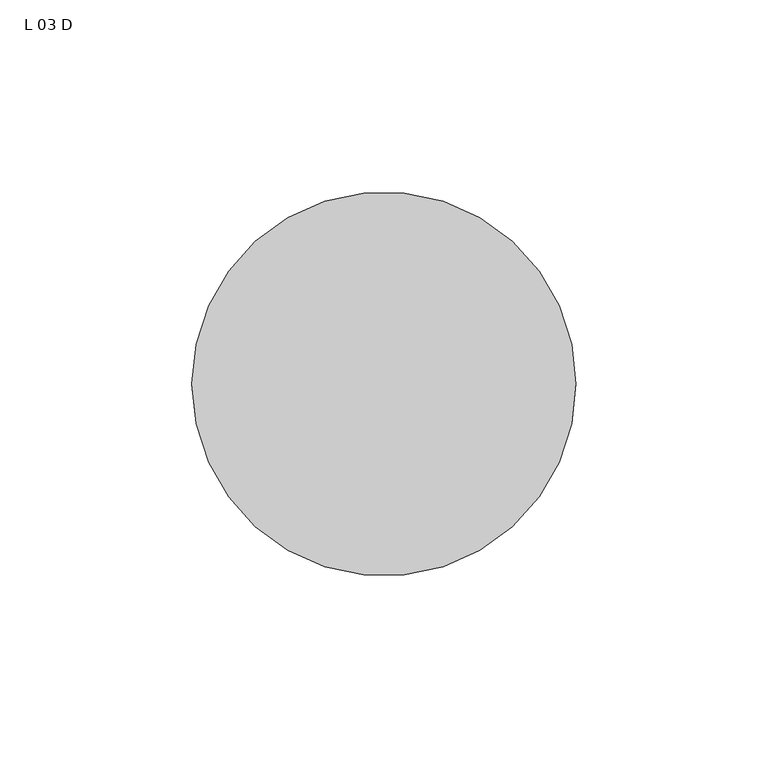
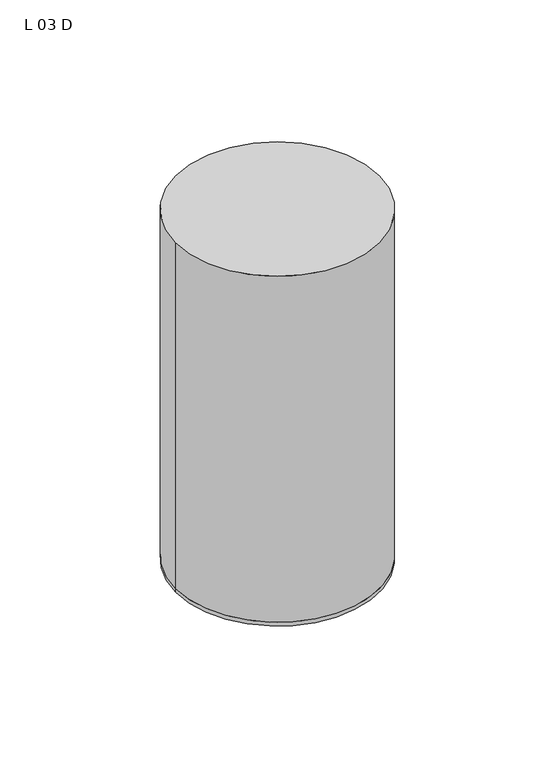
"""IFC4 building model written with IfcOpenShell, lengths in millimetres: light fixture geometry, ZYR_06.02.02 Down Superficie : L 03 D."""

import ifcopenshell
import ifcopenshell.guid

model = None  # the IFC model being written
_history = None  # IfcOwnerHistory: only IFC2X3 demands one
_inside = {}  # id of a spatial element -> (the spatial element, [elements in it])
_under = {}  # id of a project, library or spatial element -> (it, [spatial elements below it])
_declared = {}  # id of a project -> (the project, [libraries it declares])
_typed = {}  # id of a type object -> (the type object, [elements of that type])
_made_of = {}  # id of a material, layer set ... -> (it, [elements and type objects made of it])


def new_model(schema):
    """Start an empty IFC model of exactly this schema.

    Asked for "IFC4X3", IfcOpenShell would pick the latest addendum, in which some entities
    have other attributes; the version numbers below select the first issue.
    IFC2X3 requires an IfcOwnerHistory on every rooted entity: one is made here for all.
    """
    global model, _history
    if schema == "IFC4X3":
        model = ifcopenshell.file(schema_version=(4, 3, 0, 0))
    else:
        model = ifcopenshell.file(schema=schema)
    _inside.clear()
    _under.clear()
    _declared.clear()
    _typed.clear()
    _made_of.clear()
    _history = None
    if model.schema == "IFC2X3":
        org = make("IfcOrganization", Name="unknown")
        user = make(
            "IfcPersonAndOrganization",
            ThePerson=make("IfcPerson", FamilyName="unknown"),
            TheOrganization=org,
        )
        app = make(
            "IfcApplication",
            ApplicationDeveloper=org,
            Version="unknown",
            ApplicationFullName="unknown",
            ApplicationIdentifier="unknown",
        )
        _history = make(
            "IfcOwnerHistory",
            OwningUser=user,
            OwningApplication=app,
            ChangeAction="ADDED",
            CreationDate=0,
        )
    return model


def make(cls, **values):
    """One entity of the class cls with the attributes given. An attribute that is None is left unset."""
    return model.create_entity(
        cls, **{name: value for name, value in values.items() if value is not None}
    )


def rooted(cls, **values):
    """An entity with a GlobalId (a new one), such as an element, a storey or a relation."""
    return make(cls, GlobalId=ifcopenshell.guid.new(), OwnerHistory=_history, **values)


def si_unit(unit_type, name, prefix=None):
    """IfcSIUnit, for example si_unit("LENGTHUNIT", "METRE", prefix="MILLI")."""
    return make("IfcSIUnit", UnitType=unit_type, Prefix=prefix, Name=name)


def assignment(units):
    """IfcUnitAssignment: the units of a project."""
    return None if units is None else make("IfcUnitAssignment", Units=units)


def point(xyz):
    """IfcCartesianPoint."""
    return None if xyz is None else make("IfcCartesianPoint", Coordinates=xyz)


def direction(xyz):
    """IfcDirection."""
    return None if xyz is None else make("IfcDirection", DirectionRatios=xyz)


def frame(location, z_axis=None, x_axis=None):
    """IfcAxis2Placement3D, a coordinate frame: its origin and axes. An axis left out is left unset."""
    return make(
        "IfcAxis2Placement3D",
        Location=point(location),
        Axis=direction(z_axis),
        RefDirection=direction(x_axis),
    )


def frame_2d(location, x_axis=None):
    """IfcAxis2Placement2D, a coordinate frame in the plane: its origin and x axis."""
    return make(
        "IfcAxis2Placement2D", Location=point(location), RefDirection=direction(x_axis)
    )


def origin():
    """The frame at (0, 0, 0) with its axes left unset."""
    return frame((0.0, 0.0, 0.0))


def origin_2d():
    """The frame at (0, 0) in the plane with its x axis left unset."""
    return frame_2d((0.0, 0.0))


def place(relative_to, where):
    """IfcLocalPlacement: puts the frame where relative to a parent placement (None: the world)."""
    return make(
        "IfcLocalPlacement", PlacementRelTo=relative_to, RelativePlacement=where
    )


def context(
    kind, dimensions, precision=None, world=None, true_north=None, identifier=None
):
    """IfcGeometricRepresentationContext, for example the 3D "Model" context."""
    return make(
        "IfcGeometricRepresentationContext",
        ContextIdentifier=identifier,
        ContextType=kind,
        CoordinateSpaceDimension=dimensions,
        Precision=precision,
        WorldCoordinateSystem=world,
        TrueNorth=true_north,
    )


def project(units=None, contexts=None):
    """IfcProject with its units and contexts."""
    return rooted(
        "IfcProject",
        Name="project",
        RepresentationContexts=contexts,
        UnitsInContext=assignment(units),
    )


def spatial(cls, under=None, at=None, **own):
    """A site, building, storey or space (cls), placed at a placement, below another one or the project."""
    s = rooted(cls, ObjectPlacement=at, **own)
    if under is not None:
        _under.setdefault(under.id(), (under, []))[1].append(s)
    return s


def circle_curve(where, radius):
    """IfcCircle in the frame where."""
    return make("IfcCircle", Position=where, Radius=radius)


def trimmed(basis, trim1, trim2, sense, master):
    """IfcTrimmedCurve: the piece of a basis curve between two trims."""
    return make(
        "IfcTrimmedCurve",
        BasisCurve=basis,
        Trim1=trim1,
        Trim2=trim2,
        SenseAgreement=sense,
        MasterRepresentation=master,
    )


def segment(curve, same_sense, transition):
    """IfcCompositeCurveSegment."""
    return make(
        "IfcCompositeCurveSegment",
        Transition=transition,
        SameSense=same_sense,
        ParentCurve=curve,
    )


def composite_curve(segments, self_intersect=None):
    """IfcCompositeCurve: segments joined end to end."""
    return make("IfcCompositeCurve", Segments=segments, SelfIntersect=self_intersect)


def outline(outer, holes=None, kind="AREA"):
    """IfcArbitraryClosedProfileDef: a profile drawn as a closed curve; with holes, ...WithVoids."""
    if holes is None:
        return make("IfcArbitraryClosedProfileDef", ProfileType=kind, OuterCurve=outer)
    return make(
        "IfcArbitraryProfileDefWithVoids",
        ProfileType=kind,
        OuterCurve=outer,
        InnerCurves=holes,
    )


def extrude(swept, where, along, depth):
    """IfcExtrudedAreaSolid: the profile swept, set in the frame where, extruded along a direction by depth."""
    return make(
        "IfcExtrudedAreaSolid",
        SweptArea=swept,
        Position=where,
        ExtrudedDirection=direction(along),
        Depth=depth,
    )


def shape(context_of_items, identifier, shape_type, items):
    """IfcShapeRepresentation: the items that make up one representation, for example the "Body"."""
    return make(
        "IfcShapeRepresentation",
        ContextOfItems=context_of_items,
        RepresentationIdentifier=identifier,
        RepresentationType=shape_type,
        Items=items,
    )


def source(mapping_origin, context_of_items, identifier, shape_type, items):
    """IfcRepresentationMap: a shape defined once, which mapped items show again and again."""
    return make(
        "IfcRepresentationMap",
        MappingOrigin=mapping_origin,
        MappedRepresentation=shape(context_of_items, identifier, shape_type, items),
    )


def transform(
    local_origin,
    x_axis=None,
    y_axis=None,
    z_axis=None,
    scale=None,
    scale2=None,
    scale3=None,
    uniform=True,
):
    """IfcCartesianTransformationOperator3D, or its non-uniform kind. x_axis, y_axis, z_axis: its Axis1, 2, 3."""
    if uniform:
        return make(
            "IfcCartesianTransformationOperator3D",
            Axis1=direction(x_axis),
            Axis2=direction(y_axis),
            LocalOrigin=point(local_origin),
            Scale=scale,
            Axis3=direction(z_axis),
        )
    return make(
        "IfcCartesianTransformationOperator3DnonUniform",
        Axis1=direction(x_axis),
        Axis2=direction(y_axis),
        LocalOrigin=point(local_origin),
        Scale=scale,
        Axis3=direction(z_axis),
        Scale2=scale2,
        Scale3=scale3,
    )


def mapped(mapping_source, mapping_target):
    """IfcMappedItem: shows the shape of a source again, moved by a transform."""
    return make(
        "IfcMappedItem", MappingSource=mapping_source, MappingTarget=mapping_target
    )


def made_of(thing, what):
    """Note that an element or type object is made of a material, layer set ...; save() writes the relation."""
    if what is not None:
        _made_of.setdefault(what.id(), (what, []))[1].append(thing)
    return thing


def element(
    cls,
    number,
    at=None,
    inside=None,
    cuts=None,
    type_object=None,
    material=None,
    context=None,
    identifier="Body",
    shape_type=None,
    held_by="IfcProductDefinitionShape",
    body=None,
    shapes=None,
    **own,
):
    """One element of the class cls, such as IfcWall. Its Tag is "e" and its number.

    at: its placement. inside: the storey or other place that contains it. cuts: it is an
    opening in that element (IfcRelVoidsElement). A single representation is given by context,
    identifier, shape_type and body (its items); several are given by shapes. held_by: the class
    of the entity that holds the representations. save() writes the other relations.
    """
    e = rooted(cls, Tag="e%d" % number, ObjectPlacement=at, **own)
    if body is not None:
        shapes = [shape(context, identifier, shape_type, body)]
    if shapes is not None:
        e.Representation = make(held_by, Representations=shapes)
    if inside is not None:
        _inside.setdefault(inside.id(), (inside, []))[1].append(e)
    if cuts is not None:
        rooted(
            "IfcRelVoidsElement", RelatingBuildingElement=cuts, RelatedOpeningElement=e
        )
    if type_object is not None:
        _typed.setdefault(type_object.id(), (type_object, []))[1].append(e)
    return made_of(e, material)


def aggregate(whole, parts):
    """IfcRelAggregates: a whole, such as a stair, and the parts it consists of."""
    return rooted("IfcRelAggregates", RelatingObject=whole, RelatedObjects=parts)


def save(model, path):
    """Write the relations noted so far, then the file.

    IfcRelAggregates (storeys below a building ...), IfcRelContainedInSpatialStructure (elements
    in a storey), IfcRelDefinesByType, IfcRelAssociatesMaterial and IfcRelDeclares: one each for
    every whole, place, type object, material and project.
    """
    for whole, parts in _under.values():
        aggregate(whole, parts)
    for where, things in _inside.values():
        rooted(
            "IfcRelContainedInSpatialStructure",
            RelatedElements=things,
            RelatingStructure=where,
        )
    for kind, things in _typed.values():
        rooted("IfcRelDefinesByType", RelatedObjects=things, RelatingType=kind)
    for what, things in _made_of.values():
        rooted("IfcRelAssociatesMaterial", RelatedObjects=things, RelatingMaterial=what)
    for by, libraries in _declared.values():
        rooted("IfcRelDeclares", RelatingContext=by, RelatedDefinitions=libraries)
    model.write(path)


def l_03_d_08c9510a(model_context):
    return source(origin(), model_context, "Body", "SweptSolid", [
        extrude(outline(composite_curve([segment(trimmed(circle_curve(origin_2d(), 50.0), [point((-50.0, 0.0))], [point((50.0, 0.0))], False, "CARTESIAN"), True, "CONTINUOUS"), segment(trimmed(circle_curve(origin_2d(), 50.0), [point((50.0, 0.0))], [point((-50.0, 0.0))], False, "CARTESIAN"), True, "CONTINUOUS")], self_intersect=False)), frame((0.0, 0.0, -180.0), z_axis=(0.0, 0.0, 1.0), x_axis=(1.0, 0.0, 0.0)), (0.0, 0.0, 1.0), 180.0),
        extrude(outline(composite_curve([segment(trimmed(circle_curve(origin_2d(), 50.0), [point((-50.0, 0.0))], [point((50.0, 0.0))], False, "CARTESIAN"), True, "CONTINUOUS"), segment(trimmed(circle_curve(origin_2d(), 50.0), [point((50.0, 0.0))], [point((-50.0, 0.0))], False, "CARTESIAN"), True, "CONTINUOUS")], self_intersect=False)), frame((0.0, 0.0, -182.0), z_axis=(0.0, 0.0, 1.0), x_axis=(1.0, 0.0, 0.0)), (0.0, 0.0, 1.0), 2.0),
    ])


if __name__ == "__main__":
    model = new_model("IFC4")
    model_context = context("Model", 3, world=origin())
    ifc_project = project(units=[si_unit("LENGTHUNIT", "METRE", prefix="MILLI")], contexts=[model_context])
    site = spatial("IfcSite", under=ifc_project)
    building = spatial("IfcBuilding", under=site)
    placement = place(None, origin())
    l_03_d_shape = l_03_d_08c9510a(model_context)
    element("IfcLightFixture", 1, ObjectType="ZYR_06.02.02 Down Superficie : L 03 D", at=placement, inside=building, context=model_context, shape_type="MappedRepresentation", body=[
        mapped(l_03_d_shape, transform((0.0, 0.0, 0.0), x_axis=(1.0, 0.0, 0.0), y_axis=(0.0, 1.0, 0.0), z_axis=(0.0, 0.0, 1.0))),
    ])
    save(model, "model.ifc")
